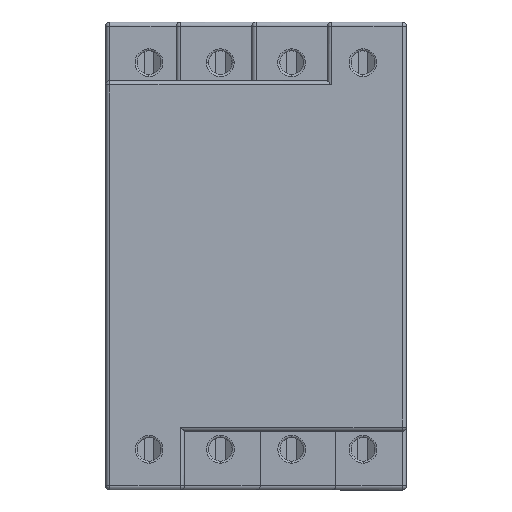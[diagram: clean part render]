
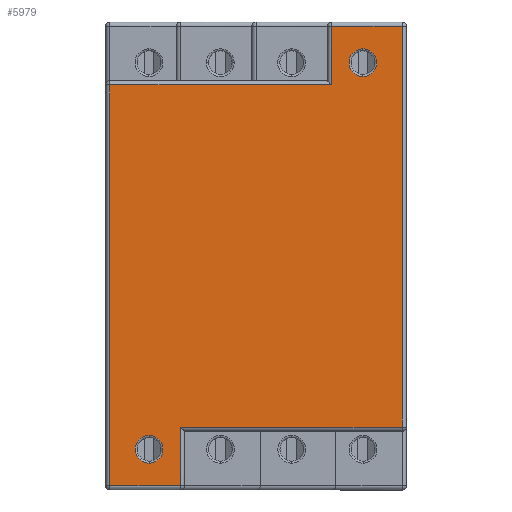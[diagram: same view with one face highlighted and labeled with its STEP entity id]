
A CAD part, front view. The second image highlights one B-rep face of the part: STEP entity #5979.
In plain terms, the highlighted planar face has unit normal (0, -1, 0).
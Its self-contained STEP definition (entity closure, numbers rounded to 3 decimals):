
#175 = VERTEX_POINT ( 'NONE', #3781 ) ;
#177 = LINE ( 'NONE', #6687, #3011 ) ;
#230 = ORIENTED_EDGE ( 'NONE', *, *, #3264, .T. ) ;
#403 = EDGE_CURVE ( 'NONE', #175, #1446, #6964, .T. ) ;
#496 = CARTESIAN_POINT ( 'NONE',  ( 25.64, 0., 49.675 ) ) ;
#696 = EDGE_CURVE ( 'NONE', #4317, #175, #7279, .T. ) ;
#803 = CARTESIAN_POINT ( 'NONE',  ( -25.64, 0., -46.35 ) ) ;
#998 = AXIS2_PLACEMENT_3D ( 'NONE', #1183, #2232, #9659 ) ;
#1183 = CARTESIAN_POINT ( 'NONE',  ( 0., 0., 0. ) ) ;
#1205 = VERTEX_POINT ( 'NONE', #496 ) ;
#1214 = DIRECTION ( 'NONE',  ( -1., 0., 0. ) ) ;
#1446 = VERTEX_POINT ( 'NONE', #12725 ) ;
#1595 = ORIENTED_EDGE ( 'NONE', *, *, #696, .T. ) ;
#1624 = LINE ( 'NONE', #7595, #12528 ) ;
#1665 = VECTOR ( 'NONE', #4345, 1000. ) ;
#1733 = EDGE_CURVE ( 'NONE', #11710, #1205, #5935, .T. ) ;
#1791 = CARTESIAN_POINT ( 'NONE',  ( 0., 0., -41. ) ) ;
#1827 = VERTEX_POINT ( 'NONE', #11352 ) ;
#1893 = DIRECTION ( 'NONE',  ( 0., 0., 1. ) ) ;
#2226 = VECTOR ( 'NONE', #12280, 1000. ) ;
#2228 = EDGE_CURVE ( 'NONE', #1827, #4317, #9483, .T. ) ;
#2232 = DIRECTION ( 'NONE',  ( 0., 1., 0. ) ) ;
#2281 = PLANE ( 'NONE',  #998 ) ;
#2332 = DIRECTION ( 'NONE',  ( 0., 0., 1. ) ) ;
#2398 = EDGE_CURVE ( 'NONE', #8655, #11419, #7845, .T. ) ;
#2543 = DIRECTION ( 'NONE',  ( 0., 0., -1. ) ) ;
#2710 = DIRECTION ( 'NONE',  ( 0., 1., 0. ) ) ;
#3011 = VECTOR ( 'NONE', #13034, 1000. ) ;
#3242 = EDGE_CURVE ( 'NONE', #3463, #8845, #12779, .T. ) ;
#3264 = EDGE_CURVE ( 'NONE', #1205, #11710, #10606, .T. ) ;
#3372 = CARTESIAN_POINT ( 'NONE',  ( 35.05, 0., -41. ) ) ;
#3463 = VERTEX_POINT ( 'NONE', #10565 ) ;
#3529 = ORIENTED_EDGE ( 'NONE', *, *, #13213, .T. ) ;
#3600 = CARTESIAN_POINT ( 'NONE',  ( 0., 0., 41. ) ) ;
#3781 = CARTESIAN_POINT ( 'NONE',  ( -35.05, 0., -55.1 ) ) ;
#4016 = DIRECTION ( 'NONE',  ( 0., 1., 0. ) ) ;
#4245 = CIRCLE ( 'NONE', #9680, 3.325 ) ;
#4283 = EDGE_CURVE ( 'NONE', #8845, #3463, #4245, .T. ) ;
#4312 = LINE ( 'NONE', #11768, #9268 ) ;
#4317 = VERTEX_POINT ( 'NONE', #8006 ) ;
#4345 = DIRECTION ( 'NONE',  ( 1., 0., 0. ) ) ;
#4365 = AXIS2_PLACEMENT_3D ( 'NONE', #10340, #4016, #11394 ) ;
#4472 = VECTOR ( 'NONE', #2543, 1000. ) ;
#4574 = VERTEX_POINT ( 'NONE', #8899 ) ;
#4829 = DIRECTION ( 'NONE',  ( 0., 1., 0. ) ) ;
#4962 = CARTESIAN_POINT ( 'NONE',  ( 25.64, 0., 43.025 ) ) ;
#5295 = ORIENTED_EDGE ( 'NONE', *, *, #1733, .T. ) ;
#5790 = AXIS2_PLACEMENT_3D ( 'NONE', #803, #8218, #1893 ) ;
#5859 = CARTESIAN_POINT ( 'NONE',  ( -18.15, 0., -41. ) ) ;
#5891 = ORIENTED_EDGE ( 'NONE', *, *, #10981, .T. ) ;
#5935 = CIRCLE ( 'NONE', #6746, 3.325 ) ;
#5979 = ADVANCED_FACE ( 'NONE', ( #7593, #13224, #12887 ), #2281, .F. ) ;
#6007 = EDGE_CURVE ( 'NONE', #1446, #8655, #1624, .T. ) ;
#6016 = ORIENTED_EDGE ( 'NONE', *, *, #2398, .T. ) ;
#6112 = CARTESIAN_POINT ( 'NONE',  ( -25.64, 0., -43.025 ) ) ;
#6679 = VECTOR ( 'NONE', #12039, 1000. ) ;
#6687 = CARTESIAN_POINT ( 'NONE',  ( 35.05, 0., 0. ) ) ;
#6746 = AXIS2_PLACEMENT_3D ( 'NONE', #9014, #2710, #10081 ) ;
#6964 = LINE ( 'NONE', #10664, #1665 ) ;
#7279 = LINE ( 'NONE', #13077, #4472 ) ;
#7593 = FACE_BOUND ( 'NONE', #12630, .T. ) ;
#7595 = CARTESIAN_POINT ( 'NONE',  ( -18.15, 0., 0. ) ) ;
#7813 = EDGE_LOOP ( 'NONE', ( #230, #5295 ) ) ;
#7845 = LINE ( 'NONE', #1791, #2226 ) ;
#8006 = CARTESIAN_POINT ( 'NONE',  ( -35.05, 0., 41. ) ) ;
#8218 = DIRECTION ( 'NONE',  ( 0., 1., 0. ) ) ;
#8655 = VERTEX_POINT ( 'NONE', #5859 ) ;
#8845 = VERTEX_POINT ( 'NONE', #6112 ) ;
#8899 = CARTESIAN_POINT ( 'NONE',  ( 35.05, 0., 55.1 ) ) ;
#8903 = ORIENTED_EDGE ( 'NONE', *, *, #9477, .T. ) ;
#9014 = CARTESIAN_POINT ( 'NONE',  ( 25.64, 0., 46.35 ) ) ;
#9049 = ORIENTED_EDGE ( 'NONE', *, *, #2228, .T. ) ;
#9153 = VECTOR ( 'NONE', #11366, 1000. ) ;
#9268 = VECTOR ( 'NONE', #1214, 1000. ) ;
#9477 = EDGE_CURVE ( 'NONE', #12202, #1827, #9478, .T. ) ;
#9478 = LINE ( 'NONE', #10312, #9153 ) ;
#9483 = LINE ( 'NONE', #3600, #6679 ) ;
#9659 = DIRECTION ( 'NONE',  ( 0., 0., 1. ) ) ;
#9680 = AXIS2_PLACEMENT_3D ( 'NONE', #11150, #4829, #12214 ) ;
#9903 = ORIENTED_EDGE ( 'NONE', *, *, #6007, .T. ) ;
#10081 = DIRECTION ( 'NONE',  ( 0., 0., 1. ) ) ;
#10312 = CARTESIAN_POINT ( 'NONE',  ( 18.15, 0., 0. ) ) ;
#10340 = CARTESIAN_POINT ( 'NONE',  ( 25.64, 0., 46.35 ) ) ;
#10565 = CARTESIAN_POINT ( 'NONE',  ( -25.64, 0., -49.675 ) ) ;
#10606 = CIRCLE ( 'NONE', #4365, 3.325 ) ;
#10664 = CARTESIAN_POINT ( 'NONE',  ( 0., 0., -55.1 ) ) ;
#10981 = EDGE_CURVE ( 'NONE', #4574, #12202, #4312, .T. ) ;
#11055 = ORIENTED_EDGE ( 'NONE', *, *, #3242, .T. ) ;
#11150 = CARTESIAN_POINT ( 'NONE',  ( -25.64, 0., -46.35 ) ) ;
#11223 = ORIENTED_EDGE ( 'NONE', *, *, #4283, .T. ) ;
#11352 = CARTESIAN_POINT ( 'NONE',  ( 18.15, 0., 41. ) ) ;
#11366 = DIRECTION ( 'NONE',  ( 0., 0., -1. ) ) ;
#11394 = DIRECTION ( 'NONE',  ( 0., 0., 1. ) ) ;
#11419 = VERTEX_POINT ( 'NONE', #3372 ) ;
#11710 = VERTEX_POINT ( 'NONE', #4962 ) ;
#11768 = CARTESIAN_POINT ( 'NONE',  ( 0., 0., 55.1 ) ) ;
#11918 = EDGE_LOOP ( 'NONE', ( #13740, #9903, #6016, #3529, #5891, #8903, #9049, #1595 ) ) ;
#12026 = CARTESIAN_POINT ( 'NONE',  ( 18.15, 0., 55.1 ) ) ;
#12039 = DIRECTION ( 'NONE',  ( -1., 0., 0. ) ) ;
#12202 = VERTEX_POINT ( 'NONE', #12026 ) ;
#12214 = DIRECTION ( 'NONE',  ( 0., 0., 1. ) ) ;
#12280 = DIRECTION ( 'NONE',  ( 1., 0., 0. ) ) ;
#12528 = VECTOR ( 'NONE', #2332, 1000. ) ;
#12630 = EDGE_LOOP ( 'NONE', ( #11223, #11055 ) ) ;
#12725 = CARTESIAN_POINT ( 'NONE',  ( -18.15, 0., -55.1 ) ) ;
#12779 = CIRCLE ( 'NONE', #5790, 3.325 ) ;
#12887 = FACE_OUTER_BOUND ( 'NONE', #11918, .T. ) ;
#13034 = DIRECTION ( 'NONE',  ( 0., 0., 1. ) ) ;
#13077 = CARTESIAN_POINT ( 'NONE',  ( -35.05, 0., 0. ) ) ;
#13213 = EDGE_CURVE ( 'NONE', #11419, #4574, #177, .T. ) ;
#13224 = FACE_BOUND ( 'NONE', #7813, .T. ) ;
#13740 = ORIENTED_EDGE ( 'NONE', *, *, #403, .T. ) ;
